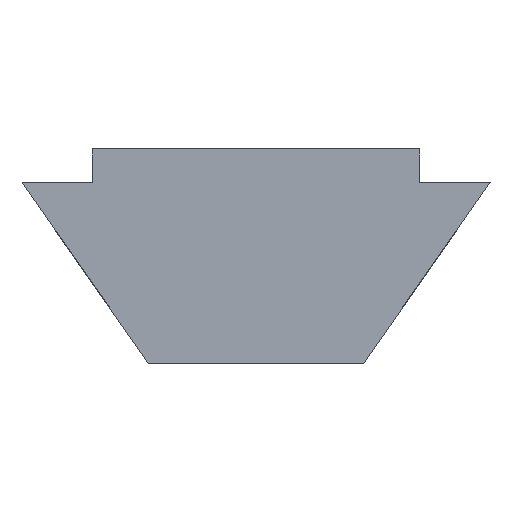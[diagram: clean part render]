
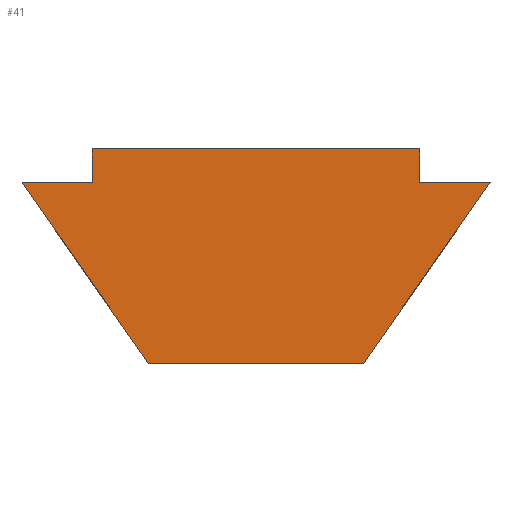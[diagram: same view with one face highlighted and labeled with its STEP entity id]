
A CAD part, left-side view. The second image highlights one B-rep face of the part: STEP entity #41.
In plain terms, the highlighted planar face has unit normal (-1, 0, 0) as drawn and (0, -1, 0) by its records, which use the part's own axes.
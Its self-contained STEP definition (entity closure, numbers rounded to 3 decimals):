
#41=ADVANCED_FACE('',(#54),#503,.T.);
#54=FACE_OUTER_BOUND('',#68,.T.);
#68=EDGE_LOOP('',(#112,#113,#114,#115,#116,#117,#118,#119));
#112=ORIENTED_EDGE('',*,*,#362,.F.);
#113=ORIENTED_EDGE('',*,*,#359,.F.);
#114=ORIENTED_EDGE('',*,*,#354,.F.);
#115=ORIENTED_EDGE('',*,*,#351,.F.);
#116=ORIENTED_EDGE('',*,*,#348,.F.);
#117=ORIENTED_EDGE('',*,*,#345,.F.);
#118=ORIENTED_EDGE('',*,*,#364,.T.);
#119=ORIENTED_EDGE('',*,*,#337,.F.);
#157=PCURVE('',#495,#229);
#166=PCURVE('',#497,#238);
#170=PCURVE('',#498,#242);
#174=PCURVE('',#499,#246);
#178=PCURVE('',#500,#250);
#184=PCURVE('',#501,#256);
#188=PCURVE('',#502,#260);
#192=PCURVE('',#503,#264);
#193=PCURVE('',#503,#265);
#194=PCURVE('',#503,#266);
#195=PCURVE('',#503,#267);
#196=PCURVE('',#503,#268);
#197=PCURVE('',#503,#269);
#198=PCURVE('',#503,#270);
#199=PCURVE('',#503,#271);
#216=PCURVE('',#496,#288);
#229=DEFINITIONAL_REPRESENTATION('',(#378),#1041);
#238=DEFINITIONAL_REPRESENTATION('',(#393),#1041);
#242=DEFINITIONAL_REPRESENTATION('',(#400),#1041);
#246=DEFINITIONAL_REPRESENTATION('',(#407),#1041);
#250=DEFINITIONAL_REPRESENTATION('',(#414),#1041);
#256=DEFINITIONAL_REPRESENTATION('',(#423),#1041);
#260=DEFINITIONAL_REPRESENTATION('',(#430),#1041);
#264=DEFINITIONAL_REPRESENTATION('',(#435),#1041);
#265=DEFINITIONAL_REPRESENTATION('',(#436),#1041);
#266=DEFINITIONAL_REPRESENTATION('',(#437),#1041);
#267=DEFINITIONAL_REPRESENTATION('',(#438),#1041);
#268=DEFINITIONAL_REPRESENTATION('',(#439),#1041);
#269=DEFINITIONAL_REPRESENTATION('',(#440),#1041);
#270=DEFINITIONAL_REPRESENTATION('',(#442),#1041);
#271=DEFINITIONAL_REPRESENTATION('',(#443),#1041);
#288=DEFINITIONAL_REPRESENTATION('',(#460),#1041);
#301=SURFACE_CURVE('',#377,(#157,#199),.PCURVE_S1.);
#309=SURFACE_CURVE('',#392,(#166,#197),.PCURVE_S1.);
#312=SURFACE_CURVE('',#399,(#170,#196),.PCURVE_S1.);
#315=SURFACE_CURVE('',#406,(#174,#195),.PCURVE_S1.);
#318=SURFACE_CURVE('',#413,(#178,#194),.PCURVE_S1.);
#323=SURFACE_CURVE('',#422,(#184,#193),.PCURVE_S1.);
#326=SURFACE_CURVE('',#429,(#188,#192),.PCURVE_S1.);
#328=SURFACE_CURVE('',#441,(#198,#216),.PCURVE_S1.);
#337=EDGE_CURVE('',#469,#470,#301,.T.);
#345=EDGE_CURVE('',#473,#475,#309,.T.);
#348=EDGE_CURVE('',#475,#477,#312,.T.);
#351=EDGE_CURVE('',#477,#479,#315,.T.);
#354=EDGE_CURVE('',#479,#481,#318,.T.);
#359=EDGE_CURVE('',#481,#483,#323,.T.);
#362=EDGE_CURVE('',#483,#469,#326,.T.);
#364=EDGE_CURVE('',#473,#470,#328,.T.);
#377=B_SPLINE_CURVE_WITH_KNOTS('',1,(#698,#699),.UNSPECIFIED.,.F.,.F.,(2,
2),(-3.906,0.),.UNSPECIFIED.);
#378=B_SPLINE_CURVE_WITH_KNOTS('',1,(#700,#701),.UNSPECIFIED.,.F.,.F.,(2,
2),(-3.906,0.),.UNSPECIFIED.);
#392=B_SPLINE_CURVE_WITH_KNOTS('',1,(#774,#775),.UNSPECIFIED.,.F.,.F.,(2,
2),(3.819,7.725),.UNSPECIFIED.);
#393=B_SPLINE_CURVE_WITH_KNOTS('',1,(#776,#777),.UNSPECIFIED.,.F.,.F.,(2,
2),(3.819,7.725),.UNSPECIFIED.);
#399=B_SPLINE_CURVE_WITH_KNOTS('',1,(#788,#789),.UNSPECIFIED.,.F.,.F.,(2,
2),(7.725,8.975),.UNSPECIFIED.);
#400=B_SPLINE_CURVE_WITH_KNOTS('',1,(#790,#791),.UNSPECIFIED.,.F.,.F.,(2,
2),(7.725,8.975),.UNSPECIFIED.);
#406=B_SPLINE_CURVE_WITH_KNOTS('',1,(#802,#803),.UNSPECIFIED.,.F.,.F.,(2,
2),(8.975,9.575),.UNSPECIFIED.);
#407=B_SPLINE_CURVE_WITH_KNOTS('',1,(#804,#805),.UNSPECIFIED.,.F.,.F.,(2,
2),(8.975,9.575),.UNSPECIFIED.);
#413=B_SPLINE_CURVE_WITH_KNOTS('',1,(#816,#817),.UNSPECIFIED.,.F.,.F.,(2,
2),(9.575,15.375),.UNSPECIFIED.);
#414=B_SPLINE_CURVE_WITH_KNOTS('',1,(#818,#819),.UNSPECIFIED.,.F.,.F.,(2,
2),(9.575,15.375),.UNSPECIFIED.);
#422=B_SPLINE_CURVE_WITH_KNOTS('',1,(#890,#891),.UNSPECIFIED.,.F.,.F.,(2,
2),(15.375,15.975),.UNSPECIFIED.);
#423=B_SPLINE_CURVE_WITH_KNOTS('',1,(#892,#893),.UNSPECIFIED.,.F.,.F.,(2,
2),(15.375,15.975),.UNSPECIFIED.);
#429=B_SPLINE_CURVE_WITH_KNOTS('',1,(#904,#905),.UNSPECIFIED.,.F.,.F.,(2,
2),(15.975,17.225),.UNSPECIFIED.);
#430=B_SPLINE_CURVE_WITH_KNOTS('',1,(#906,#907),.UNSPECIFIED.,.F.,.F.,(2,
2),(15.975,17.225),.UNSPECIFIED.);
#435=B_SPLINE_CURVE_WITH_KNOTS('',1,(#916,#917),.UNSPECIFIED.,.F.,.F.,(2,
2),(15.975,17.225),.UNSPECIFIED.);
#436=B_SPLINE_CURVE_WITH_KNOTS('',1,(#918,#919),.UNSPECIFIED.,.F.,.F.,(2,
2),(15.375,15.975),.UNSPECIFIED.);
#437=B_SPLINE_CURVE_WITH_KNOTS('',1,(#920,#921),.UNSPECIFIED.,.F.,.F.,(2,
2),(9.575,15.375),.UNSPECIFIED.);
#438=B_SPLINE_CURVE_WITH_KNOTS('',1,(#922,#923),.UNSPECIFIED.,.F.,.F.,(2,
2),(8.975,9.575),.UNSPECIFIED.);
#439=B_SPLINE_CURVE_WITH_KNOTS('',1,(#924,#925),.UNSPECIFIED.,.F.,.F.,(2,
2),(7.725,8.975),.UNSPECIFIED.);
#440=B_SPLINE_CURVE_WITH_KNOTS('',1,(#926,#927),.UNSPECIFIED.,.F.,.F.,(2,
2),(3.819,7.725),.UNSPECIFIED.);
#441=B_SPLINE_CURVE_WITH_KNOTS('',1,(#928,#929),.UNSPECIFIED.,.F.,.F.,(2,
2),(-3.819,0.),.UNSPECIFIED.);
#442=B_SPLINE_CURVE_WITH_KNOTS('',1,(#930,#931),.UNSPECIFIED.,.F.,.F.,(2,
2),(-3.819,0.),.UNSPECIFIED.);
#443=B_SPLINE_CURVE_WITH_KNOTS('',1,(#932,#933),.UNSPECIFIED.,.F.,.F.,(2,
2),(-3.906,0.),.UNSPECIFIED.);
#460=B_SPLINE_CURVE_WITH_KNOTS('',1,(#995,#996),.UNSPECIFIED.,.F.,.F.,(2,
2),(-3.819,0.),.UNSPECIFIED.);
#469=VERTEX_POINT('',#628);
#470=VERTEX_POINT('',#629);
#473=VERTEX_POINT('',#632);
#475=VERTEX_POINT('',#634);
#477=VERTEX_POINT('',#636);
#479=VERTEX_POINT('',#638);
#481=VERTEX_POINT('',#640);
#483=VERTEX_POINT('',#642);
#495=PLANE('',#547);
#496=PLANE('',#548);
#497=PLANE('',#549);
#498=PLANE('',#550);
#499=PLANE('',#551);
#500=PLANE('',#552);
#501=PLANE('',#553);
#502=PLANE('',#554);
#503=PLANE('',#555);
#547=AXIS2_PLACEMENT_3D('',#582,#564,$);
#548=AXIS2_PLACEMENT_3D('',#583,#565,$);
#549=AXIS2_PLACEMENT_3D('',#584,#566,$);
#550=AXIS2_PLACEMENT_3D('',#585,#567,$);
#551=AXIS2_PLACEMENT_3D('',#586,#568,$);
#552=AXIS2_PLACEMENT_3D('',#587,#569,$);
#553=AXIS2_PLACEMENT_3D('',#588,#570,$);
#554=AXIS2_PLACEMENT_3D('',#589,#571,$);
#555=AXIS2_PLACEMENT_3D('',#626,#572,$);
#564=DIRECTION('',(-0.574,0.,-0.819));
#565=DIRECTION('',(-1.,0.,0.));
#566=DIRECTION('',(-0.574,0.,0.819));
#567=DIRECTION('',(1.,0.,0.));
#568=DIRECTION('',(0.,0.,1.));
#569=DIRECTION('',(1.,0.,0.));
#570=DIRECTION('',(0.,0.,-1.));
#571=DIRECTION('',(1.,0.,0.));
#572=DIRECTION('',(0.,-1.,0.));
#582=CARTESIAN_POINT('',(-0.6,-11.,-4.15));
#583=CARTESIAN_POINT('',(-3.8,-11.,-1.909));
#584=CARTESIAN_POINT('',(-3.8,-11.,1.909));
#585=CARTESIAN_POINT('',(-0.6,-11.,4.15));
#586=CARTESIAN_POINT('',(-0.6,-11.,2.9));
#587=CARTESIAN_POINT('',(0.,-11.,2.9));
#588=CARTESIAN_POINT('',(0.,-11.,-2.9));
#589=CARTESIAN_POINT('',(-0.6,-11.,-2.9));
#626=CARTESIAN_POINT('',(-4.275,-11.,5.188));
#628=CARTESIAN_POINT('',(-0.6,-11.,-4.15));
#629=CARTESIAN_POINT('',(-3.8,-11.,-1.909));
#632=CARTESIAN_POINT('',(-3.8,-11.,1.909));
#634=CARTESIAN_POINT('',(-0.6,-11.,4.15));
#636=CARTESIAN_POINT('',(-0.6,-11.,2.9));
#638=CARTESIAN_POINT('',(0.,-11.,2.9));
#640=CARTESIAN_POINT('',(0.,-11.,-2.9));
#642=CARTESIAN_POINT('',(-0.6,-11.,-2.9));
#698=CARTESIAN_POINT('',(-0.6,-11.,-4.15));
#699=CARTESIAN_POINT('',(-3.8,-11.,-1.909));
#700=CARTESIAN_POINT('',(-3.906,0.));
#701=CARTESIAN_POINT('',(0.,0.));
#774=CARTESIAN_POINT('',(-3.8,-11.,1.909));
#775=CARTESIAN_POINT('',(-0.6,-11.,4.15));
#776=CARTESIAN_POINT('',(3.819,0.));
#777=CARTESIAN_POINT('',(7.725,0.));
#788=CARTESIAN_POINT('',(-0.6,-11.,4.15));
#789=CARTESIAN_POINT('',(-0.6,-11.,2.9));
#790=CARTESIAN_POINT('',(7.725,0.));
#791=CARTESIAN_POINT('',(8.975,0.));
#802=CARTESIAN_POINT('',(-0.6,-11.,2.9));
#803=CARTESIAN_POINT('',(0.,-11.,2.9));
#804=CARTESIAN_POINT('',(8.975,0.));
#805=CARTESIAN_POINT('',(9.575,0.));
#816=CARTESIAN_POINT('',(0.,-11.,2.9));
#817=CARTESIAN_POINT('',(0.,-11.,-2.9));
#818=CARTESIAN_POINT('',(9.575,0.));
#819=CARTESIAN_POINT('',(15.375,0.));
#890=CARTESIAN_POINT('',(0.,-11.,-2.9));
#891=CARTESIAN_POINT('',(-0.6,-11.,-2.9));
#892=CARTESIAN_POINT('',(15.375,0.));
#893=CARTESIAN_POINT('',(15.975,0.));
#904=CARTESIAN_POINT('',(-0.6,-11.,-2.9));
#905=CARTESIAN_POINT('',(-0.6,-11.,-4.15));
#906=CARTESIAN_POINT('',(15.975,0.));
#907=CARTESIAN_POINT('',(17.225,0.));
#916=CARTESIAN_POINT('',(-1.25,0.));
#917=CARTESIAN_POINT('',(0.,0.));
#918=CARTESIAN_POINT('',(-1.25,0.6));
#919=CARTESIAN_POINT('',(-1.25,0.));
#920=CARTESIAN_POINT('',(-7.05,0.6));
#921=CARTESIAN_POINT('',(-1.25,0.6));
#922=CARTESIAN_POINT('',(-7.05,0.));
#923=CARTESIAN_POINT('',(-7.05,0.6));
#924=CARTESIAN_POINT('',(-8.3,0.));
#925=CARTESIAN_POINT('',(-7.05,0.));
#926=CARTESIAN_POINT('',(-6.059,-3.2));
#927=CARTESIAN_POINT('',(-8.3,0.));
#928=CARTESIAN_POINT('',(-3.8,-11.,1.909));
#929=CARTESIAN_POINT('',(-3.8,-11.,-1.909));
#930=CARTESIAN_POINT('',(-6.059,-3.2));
#931=CARTESIAN_POINT('',(-2.241,-3.2));
#932=CARTESIAN_POINT('',(0.,0.));
#933=CARTESIAN_POINT('',(-2.241,-3.2));
#995=CARTESIAN_POINT('',(3.819,0.));
#996=CARTESIAN_POINT('',(0.,0.));
#1041=(
GEOMETRIC_REPRESENTATION_CONTEXT(2)
PARAMETRIC_REPRESENTATION_CONTEXT()
REPRESENTATION_CONTEXT('pspace','')
);
